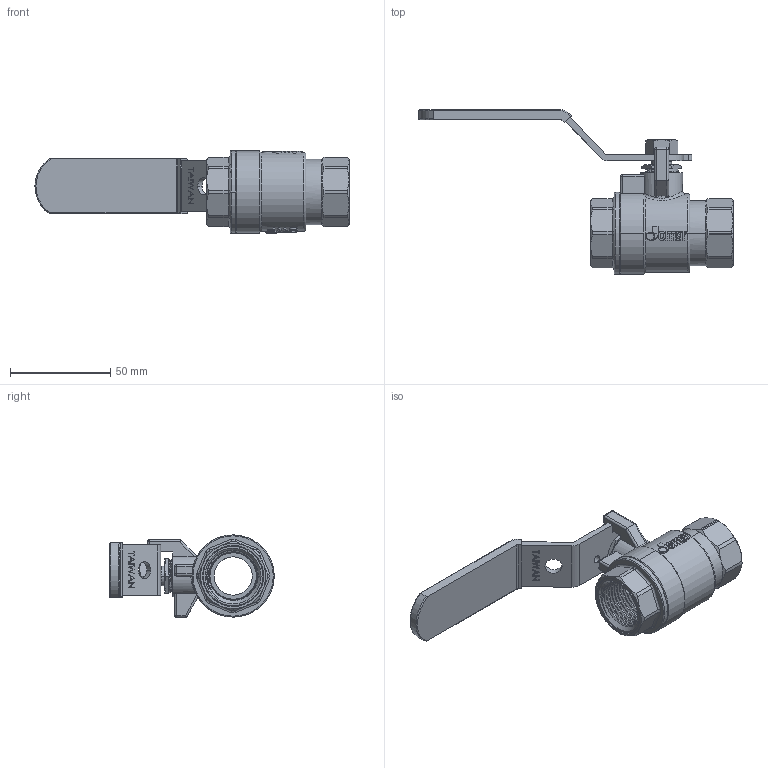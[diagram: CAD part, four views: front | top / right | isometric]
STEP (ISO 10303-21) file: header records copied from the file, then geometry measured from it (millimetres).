
FILE_DESCRIPTION (( 'STEP AP203' ), '1' );
FILE_NAME ('ABL724-無掛鎖-0.75''''JOMAR球閥體-牙口組合.STEP', '2026-04-13T01:42:52', ( '' ), ( '' ), 'SwSTEP 2.0', 'SolidWorks 2018', '' );
FILE_SCHEMA (( 'CONFIG_CONTROL_DESIGN' ));
Length unit declared in the file: millimetre
Products named in the file (13): EBL104; CBL235-20230914改; BBL724-0.75''''JOMAR瞴恢砰-Τ筣础肪礚LF; NBL265; DN20-CBL724-HANDLE & SLEEVE 組合(黃色T膠套); EBL205A; BBL724A-0.75''''JOMAR球閥八角頭-有鉛插溝; RBL264; CBL215-黃色膠套-T-200CSS; EBL205B; TBL264A; GBL205 (組裝); ABL724-無掛鎖-0.75''''JOMAR球閥體-牙口組合
Assembly tree (13 placements, depth 3):
  ABL724-無掛鎖-0.75''''JOMAR球閥體-牙口組合
    BBL724-0.75''''JOMAR瞴恢砰-Τ筣础肪礚LF
    RBL264
    EBL205A
    EBL205B
    GBL205 (組裝)
    TBL264A
    BBL724A-0.75''''JOMAR球閥八角頭-有鉛插溝
    EBL104  x2
    NBL265
    DN20-CBL724-HANDLE & SLEEVE 組合(黃色T膠套)
      CBL235-20230914改
      CBL215-黃色膠套-T-200CSS
Bounding box: 156.6 x 82.01 x 41 mm (x, y, z)
Volume: 65779.8 mm3; surface area: 53262.9 mm2
Topology: 12 solids, 12 shells, 1494 faces, 3944 edges, 2577 vertices
Faces by surface type: plane 604, bspline 472, cylinder 238, cone 137, torus 29, sphere 14
Entity records: 85212 total; most frequent: CARTESIAN_POINT 51137, ORIENTED_EDGE 7816, DIRECTION 5010, EDGE_CURVE 3908, VERTEX_POINT 2559, LINE 1998, VECTOR 1998, EDGE_LOOP 1617
